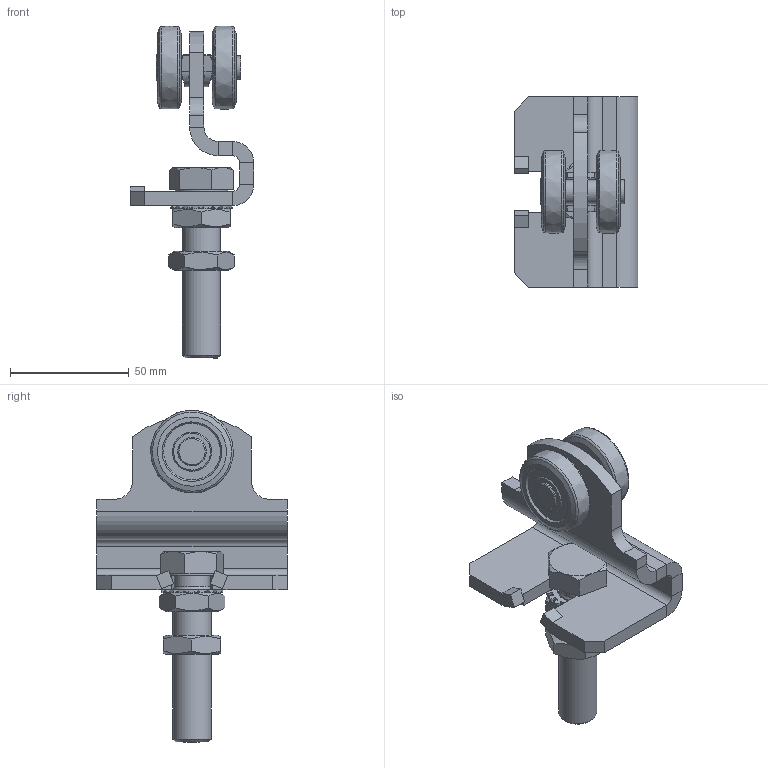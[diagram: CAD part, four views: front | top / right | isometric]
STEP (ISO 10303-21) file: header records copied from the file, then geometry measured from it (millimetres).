
FILE_DESCRIPTION(/* description */ ('Aufhaengehaken zu Einfachrolle Nr.2'),/* implementation_level */ '2;1');
FILE_NAME(/* name */ 'Q:\sge-ma\Produktmanagement-STB\STB\Workspace\stp\010336320.stp',/* time_stamp */ '2016-07-15T10:35:47+02:00',/* author */ ('avschreier'),/* organization */ (''),/* preprocessor_version */ 'ST-DEVELOPER v16.1',/* originating_system */ 'Autodesk Inventor 2016',/* authorisation */ '');
FILE_SCHEMA (('AUTOMOTIVE_DESIGN { 1 0 10303 214 3 1 1 }'));
Length unit declared in the file: millimetre
Products named in the file (8): 337000114; 336290020; 000303236; 000304013; DIN_EN_ISO_4035-M16_en; DIN_6798-A_17_en; DIN_EN_ISO_4017-M16x70_en; 010336320
Assembly tree (10 placements, depth 2):
  010336320
    337000114
    336290020  x2
    000303236  x2
    000304013
    DIN_EN_ISO_4035-M16_en  x2
    DIN_6798-A_17_en
    DIN_EN_ISO_4017-M16x70_en
Bounding box: 52 x 80 x 139.5 mm (x, y, z)
Volume: 94504.2 mm3; surface area: 37527 mm2
Topology: 10 solids, 10 shells, 347 faces, 871 edges, 555 vertices
Faces by surface type: plane 185, cylinder 106, cone 33, bspline 18, torus 5
Full cylindrical faces by diameter (mm): 10 x3, 12 x1, 13.835 x2, 14.917 x1, 16 x1, 17 x1, 22 x1
Entity records: 9503 total; most frequent: CARTESIAN_POINT 2623, DIRECTION 1456, ORIENTED_EDGE 1360, EDGE_CURVE 680, AXIS2_PLACEMENT_3D 530, VERTEX_POINT 449, LINE 396, VECTOR 396
